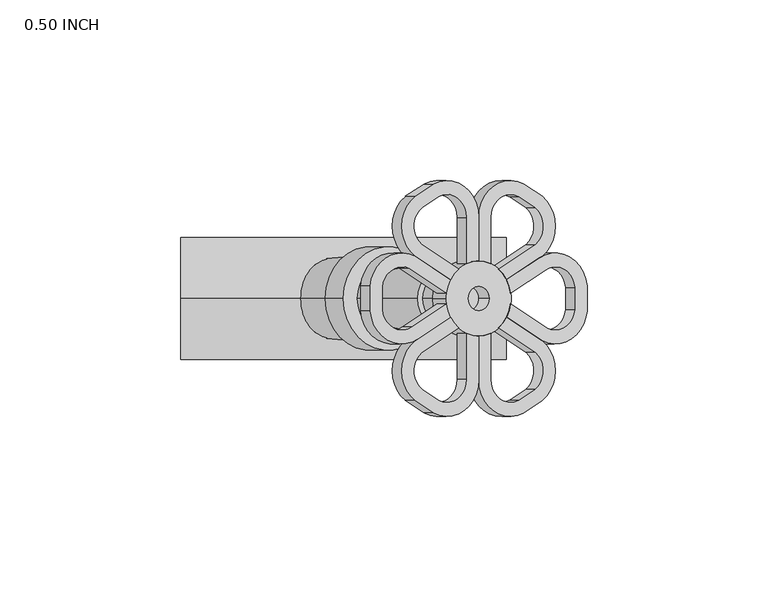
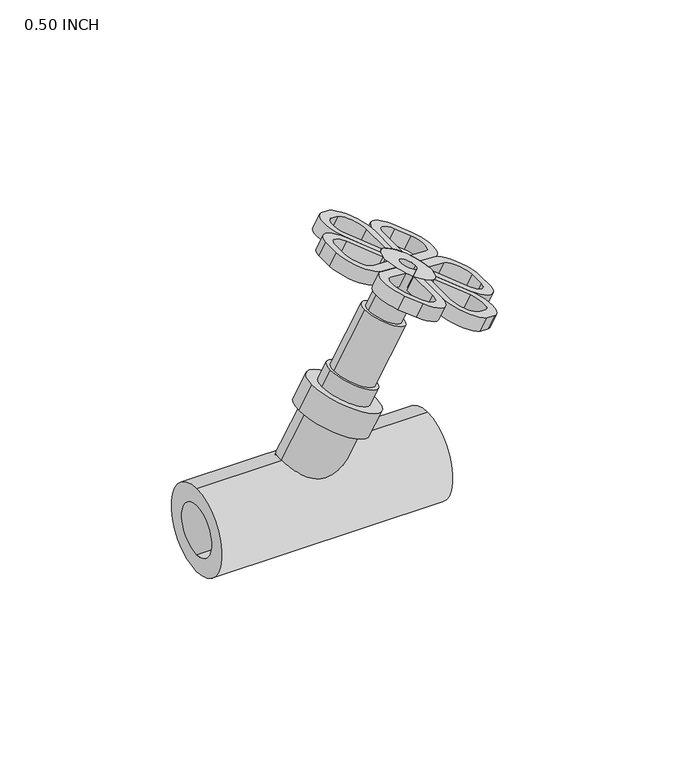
"""IFC4 building model written with IfcOpenShell, lengths in millimetres: valve geometry, Aquatherm - Inclined Valve without drain : 0.50 INCH."""

from ifc_helpers import new_model, si_unit, point, frame, frame_2d, origin, origin_2d, place, context, project, spatial, polyline, circle_curve, trimmed, segment, composite_curve, outline, extrude, source, transform, mapped, element, save
from ifc_brep_helpers import plane_surface, cylinder_surface, revolved_surface, advanced_brep


def valve_0_50_inch_d9e562da(model_context):
    return source(origin(), model_context, "Body", "SolidModel", [
        advanced_brep(
        [(111.9367275, 10.5951948, 66.2771909), (125.069744, 2.812243, 58.6948403), (125.0898625, -4.0695455, 58.6832248), (112.7241595, -12.3087434, 65.8225668), (102.9347614, -5.7824779, 71.4744784), (104.0280816, -2.111949, 70.8432497), (114.2140611, -8.902602, 64.9623717), (121.7917492, -3.6900946, 60.5873914), (121.8077835, 2.4387005, 60.578134), (113.5865059, 7.295638, 65.3246909), (104.0154846, 0.9149571, 70.8505226), (102.9071894, 4.5755028, 71.4903971), (114.6037275, 10.5951948, 70.8965704), (105.5741894, 4.5755028, 76.1097766), (106.6824846, 0.9149571, 75.4699021), (116.2535059, 7.295638, 69.9440704), (124.4532944, 2.4362397, 65.2099203), (124.473563, -3.691799, 65.1982182), (116.8810611, -8.902602, 69.5817512), (106.6950816, -2.111949, 75.4626292), (105.6017614, -5.7824779, 76.0938579), (115.3911595, -12.3087434, 70.4419463), (127.7420487, -4.0678412, 63.3111571), (127.7582331, 2.8147039, 63.301813)],
        [
            (0, 1, circle_curve(frame((116.3286929, 1.8112639, 63.7414884), z_axis=(-0.49999999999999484, 0.0, -0.8660254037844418), x_axis=(0.4330127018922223, -0.866025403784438, -0.24999999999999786)), 10.1428098)),
            (1, 2, circle_curve(frame((95.1023937, -0.6194603, 75.996498), z_axis=(-0.49999999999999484, 0.0, -0.8660254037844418), x_axis=(0.4330127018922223, -0.866025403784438, -0.24999999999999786)), 34.798)),
            (2, 3, circle_curve(frame((116.3343972, -3.0622214, 63.7381951), z_axis=(-0.49999999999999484, 0.0, -0.8660254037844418), x_axis=(0.4330127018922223, -0.866025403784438, -0.24999999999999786)), 10.1428098)),
            (3, 4),
            (4, 5, circle_curve(frame((95.1023937, -0.6194603, 75.996498), z_axis=(0.49999999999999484, 0.0, 0.8660254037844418), x_axis=(0.41622412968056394, 0.8769321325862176, -0.2403071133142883)), 10.414)),
            (5, 6),
            (6, 7, circle_curve(frame((116.3343972, -3.0622214, 63.7381951), z_axis=(0.49999999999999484, 0.0, 0.8660254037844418), x_axis=(0.4330127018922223, -0.866025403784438, -0.24999999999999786)), 6.3328098)),
            (7, 8, circle_curve(frame((95.1023937, -0.6194603, 75.996498), z_axis=(0.49999999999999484, 0.0, 0.8660254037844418), x_axis=(0.4330127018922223, -0.866025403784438, -0.24999999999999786)), 30.988)),
            (8, 9, circle_curve(frame((116.3286929, 1.8112639, 63.7414884), z_axis=(0.49999999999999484, 0.0, 0.8660254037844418), x_axis=(0.4330127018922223, -0.866025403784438, -0.24999999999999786)), 6.3328098)),
            (9, 10),
            (10, 11, circle_curve(frame((95.0966894, -0.6314972, 75.9997914), z_axis=(0.49999999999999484, 0.0, 0.8660254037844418), x_axis=(0.4330127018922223, -0.866025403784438, -0.24999999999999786)), 10.414)),
            (11, 0),
            (12, 13),
            (13, 14, circle_curve(frame((97.7636894, -0.6314972, 80.6191709), z_axis=(-0.49999999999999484, 0.0, -0.8660254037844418), x_axis=(0.4330127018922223, -0.866025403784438, -0.24999999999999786)), 10.414)),
            (14, 15),
            (15, 16, circle_curve(frame((118.9956929, 1.8112639, 68.3608679), z_axis=(-0.49999999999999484, 0.0, -0.8660254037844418), x_axis=(0.4330127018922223, -0.866025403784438, -0.24999999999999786)), 6.3328098)),
            (16, 17, circle_curve(frame((97.7693937, -0.6194603, 80.6158775), z_axis=(-0.49999999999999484, 0.0, -0.8660254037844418), x_axis=(0.4330127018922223, -0.866025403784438, -0.24999999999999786)), 30.988)),
            (17, 18, circle_curve(frame((119.0013972, -3.0622214, 68.3575746), z_axis=(-0.49999999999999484, 0.0, -0.8660254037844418), x_axis=(0.4330127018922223, -0.866025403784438, -0.24999999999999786)), 6.3328098)),
            (18, 19),
            (19, 20, circle_curve(frame((97.7693937, -0.6194603, 80.6158775), z_axis=(-0.49999999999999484, 0.0, -0.8660254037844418), x_axis=(0.41622412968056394, 0.8769321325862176, -0.2403071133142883)), 10.414)),
            (20, 21),
            (21, 22, circle_curve(frame((119.0013972, -3.0622214, 68.3575746), z_axis=(0.49999999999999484, 0.0, 0.8660254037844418), x_axis=(0.4330127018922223, -0.866025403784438, -0.24999999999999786)), 10.1428098)),
            (22, 23, circle_curve(frame((97.7693937, -0.6194603, 80.6158775), z_axis=(0.49999999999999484, 0.0, 0.8660254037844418), x_axis=(0.4330127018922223, -0.866025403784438, -0.24999999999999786)), 34.798)),
            (23, 12, circle_curve(frame((118.9956929, 1.8112639, 68.3608679), z_axis=(0.49999999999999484, 0.0, 0.8660254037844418), x_axis=(0.4330127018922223, -0.866025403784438, -0.24999999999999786)), 10.1428098)),
            (11, 13),
            (12, 0),
            (10, 14),
            (9, 15),
            (8, 16),
            (7, 17),
            (6, 18),
            (5, 19),
            (4, 20),
            (3, 21),
            (2, 22),
            (1, 23),
        ],
        [
            plane_surface(frame((120.7206584, -6.9726671, 61.205786), z_axis=(-0.4999999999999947, 0.0, -0.8660254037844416), x_axis=(-0.7500000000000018, -0.5000000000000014, 0.43301270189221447))),
            plane_surface(frame((123.3876584, -6.9726671, 65.8251655), z_axis=(0.4999999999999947, 0.0, 0.8660254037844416), x_axis=(0.7500000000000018, 0.5000000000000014, -0.43301270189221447))),
            plane_surface(frame((102.9071894, 4.5755028, 71.4903971), z_axis=(-0.43301270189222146, 0.8660254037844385, 0.24999999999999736), x_axis=(0.49999999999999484, 0.0, 0.8660254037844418))),
            revolved_surface(polyline([(102.27308368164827, -9.650285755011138, 78.01567090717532), (99.6060836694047, -9.650285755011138, 73.39629138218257)]), (97.7636894, -0.6314972, 80.6191709), (0.49999999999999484, 0.0, 0.8660254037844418)),
            plane_surface(frame((113.5865059, 7.295638, 65.3246909), z_axis=(0.43301270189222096, -0.8660254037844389, -0.24999999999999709), x_axis=(0.49999999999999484, 0.0, 0.8660254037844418))),
            revolved_surface(polyline([(121.73788002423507, -3.6731102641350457, 66.7776655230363), (119.07087998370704, -3.6731102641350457, 62.15828594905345)]), (118.9956929, 1.8112639, 68.3608679), (0.49999999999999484, 0.0, 0.8660254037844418)),
            revolved_surface(polyline([(111.1875913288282, -27.455855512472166, 72.8688775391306), (108.52059130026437, -27.455855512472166, 68.2494979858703)]), (97.7693937, -0.6194603, 80.6158775), (0.49999999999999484, 0.0, 0.8660254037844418)),
            revolved_surface(polyline([(121.74358428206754, -8.546595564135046, 66.77437215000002), (119.07658426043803, -8.546595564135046, 62.15499260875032)]), (119.0013972, -3.0622214, 68.3575746), (0.49999999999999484, 0.0, 0.8660254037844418)),
            plane_surface(frame((104.0280816, -2.111949, 70.8432497), z_axis=(0.4330127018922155, 0.8660254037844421, -0.2499999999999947), x_axis=(0.49999999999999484, 0.0, 0.8660254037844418))),
            revolved_surface(polyline([(102.10395179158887, 8.51291092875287, 78.11331923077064), (99.43695178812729, 8.51291092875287, 73.49393972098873)]), (97.7693937, -0.6194603, 80.6158775), (0.49999999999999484, 0.0, 0.8660254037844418)),
            plane_surface(frame((112.7241595, -12.3087434, 65.8225668), z_axis=(-0.43301270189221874, -0.8660254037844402, 0.24999999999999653), x_axis=(0.49999999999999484, 0.0, 0.8660254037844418))),
            cylinder_surface(frame((119.0013972, -3.0622214, 68.3575746), z_axis=(-0.49999999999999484, 0.0, -0.8660254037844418), x_axis=(0.4330127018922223, -0.866025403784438, -0.24999999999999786)), 10.1428098),
            cylinder_surface(frame((97.7693937, -0.6194603, 80.6158775), z_axis=(-0.49999999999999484, 0.0, -0.8660254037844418), x_axis=(0.4330127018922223, -0.866025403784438, -0.24999999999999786)), 34.798),
            cylinder_surface(frame((118.9956929, 1.8112639, 68.3608679), z_axis=(-0.49999999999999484, 0.0, -0.8660254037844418), x_axis=(0.4330127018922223, -0.866025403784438, -0.24999999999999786)), 10.1428098),
        ],
        [
            (0, [[1, 2, 3, 4, 5, 6, 7, 8, 9, 10, 11, 12]]),
            (1, [[13, 14, 15, 16, 17, 18, 19, 20, 21, 22, 23, 24]]),
            (2, [[-12, 25, -13, 26]]),
            (3, [[-11, 27, -14, -25]]),
            (4, [[-10, 28, -15, -27]]),
            (5, [[-9, 29, -16, -28]]),
            (6, [[-8, 30, -17, -29]]),
            (7, [[-7, 31, -18, -30]]),
            (8, [[-6, 32, -19, -31]]),
            (9, [[-5, 33, -20, -32]]),
            (10, [[-4, 34, -21, -33]]),
            (11, [[-3, 35, -22, -34]]),
            (12, [[-2, 36, -23, -35]]),
            (13, [[-1, -26, -24, -36]]),
        ],
    ),
        advanced_brep(
        [(78.2566514, -11.8581892, 85.7223918), (65.1236349, -4.0752375, 93.3047424), (65.1035164, 2.8065511, 93.3163579), (77.4692194, 11.0457489, 86.177016), (87.2586175, 4.5194835, 80.5251043), (86.1652973, 0.8489546, 81.156333), (75.9793178, 7.6396076, 87.037211), (68.4016297, 2.4271002, 91.4121913), (68.3855953, -3.7016949, 91.4214487), (76.606873, -8.5586324, 86.6748918), (86.1778943, -2.1779516, 81.1490601), (87.2861894, -5.8384972, 80.5091856), (80.9236514, -11.8581892, 90.3417713), (89.9531894, -5.8384972, 85.1285651), (88.8448943, -2.1779516, 85.7684396), (79.273873, -8.5586324, 91.2942713), (71.0740845, -3.6992341, 96.0284215), (71.0538159, 2.4288045, 96.0401236), (78.6463178, 7.6396076, 91.6565905), (88.8322973, 0.8489546, 85.7757125), (89.9256175, 4.5194835, 85.1444838), (80.1362194, 11.0457489, 90.7963955), (67.7853302, 2.8048467, 97.9271846), (67.7691458, -4.0776983, 97.9365287)],
        [
            (0, 1, circle_curve(frame((73.864686, -3.0742583, 88.2580943), z_axis=(-0.49999999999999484, 0.0, -0.8660254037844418), x_axis=(-0.4330127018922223, 0.866025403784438, 0.24999999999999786)), 10.1428098)),
            (1, 2, circle_curve(frame((95.0909852, -0.6435341, 76.0030847), z_axis=(-0.49999999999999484, 0.0, -0.8660254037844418), x_axis=(-0.4330127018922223, 0.866025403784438, 0.24999999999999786)), 34.798)),
            (2, 3, circle_curve(frame((73.8589817, 1.7992269, 88.2613876), z_axis=(-0.49999999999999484, 0.0, -0.8660254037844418), x_axis=(-0.4330127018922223, 0.866025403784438, 0.24999999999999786)), 10.1428098)),
            (3, 4),
            (4, 5, circle_curve(frame((95.0909852, -0.6435341, 76.0030847), z_axis=(0.49999999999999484, 0.0, 0.8660254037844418), x_axis=(-0.41622412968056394, -0.8769321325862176, 0.2403071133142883)), 10.414)),
            (5, 6),
            (6, 7, circle_curve(frame((73.8589817, 1.7992269, 88.2613876), z_axis=(0.49999999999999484, 0.0, 0.8660254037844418), x_axis=(-0.4330127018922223, 0.866025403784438, 0.24999999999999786)), 6.3328098)),
            (7, 8, circle_curve(frame((95.0909852, -0.6435341, 76.0030847), z_axis=(0.49999999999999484, 0.0, 0.8660254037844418), x_axis=(-0.4330127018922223, 0.866025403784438, 0.24999999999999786)), 30.988)),
            (8, 9, circle_curve(frame((73.864686, -3.0742583, 88.2580943), z_axis=(0.49999999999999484, 0.0, 0.8660254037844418), x_axis=(-0.4330127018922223, 0.866025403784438, 0.24999999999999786)), 6.3328098)),
            (9, 10),
            (10, 11, circle_curve(frame((95.0966894, -0.6314972, 75.9997914), z_axis=(0.49999999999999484, 0.0, 0.8660254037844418), x_axis=(-0.4330127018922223, 0.866025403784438, 0.24999999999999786)), 10.414)),
            (11, 0),
            (12, 13),
            (13, 14, circle_curve(frame((97.7636894, -0.6314972, 80.6191709), z_axis=(-0.49999999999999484, 0.0, -0.8660254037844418), x_axis=(-0.4330127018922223, 0.866025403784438, 0.24999999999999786)), 10.414)),
            (14, 15),
            (15, 16, circle_curve(frame((76.531686, -3.0742583, 92.8774738), z_axis=(-0.49999999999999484, 0.0, -0.8660254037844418), x_axis=(-0.4330127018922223, 0.866025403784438, 0.24999999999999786)), 6.3328098)),
            (16, 17, circle_curve(frame((97.7579852, -0.6435341, 80.6224642), z_axis=(-0.49999999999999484, 0.0, -0.8660254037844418), x_axis=(-0.4330127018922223, 0.866025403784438, 0.24999999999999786)), 30.988)),
            (17, 18, circle_curve(frame((76.5259817, 1.7992269, 92.8807671), z_axis=(-0.49999999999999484, 0.0, -0.8660254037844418), x_axis=(-0.4330127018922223, 0.866025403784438, 0.24999999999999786)), 6.3328098)),
            (18, 19),
            (19, 20, circle_curve(frame((97.7579852, -0.6435341, 80.6224642), z_axis=(-0.49999999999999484, 0.0, -0.8660254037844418), x_axis=(-0.41622412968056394, -0.8769321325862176, 0.2403071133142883)), 10.414)),
            (20, 21),
            (21, 22, circle_curve(frame((76.5259817, 1.7992269, 92.8807671), z_axis=(0.49999999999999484, 0.0, 0.8660254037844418), x_axis=(-0.4330127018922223, 0.866025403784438, 0.24999999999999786)), 10.1428098)),
            (22, 23, circle_curve(frame((97.7579852, -0.6435341, 80.6224642), z_axis=(0.49999999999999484, 0.0, 0.8660254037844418), x_axis=(-0.4330127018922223, 0.866025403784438, 0.24999999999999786)), 34.798)),
            (23, 12, circle_curve(frame((76.531686, -3.0742583, 92.8774738), z_axis=(0.49999999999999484, 0.0, 0.8660254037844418), x_axis=(-0.4330127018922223, 0.866025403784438, 0.24999999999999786)), 10.1428098)),
            (0, 12),
            (23, 1),
            (22, 2),
            (21, 3),
            (20, 4),
            (19, 5),
            (18, 6),
            (17, 7),
            (16, 8),
            (15, 9),
            (14, 10),
            (13, 11),
        ],
        [
            plane_surface(frame((69.4727205, 5.7096726, 90.7937967), z_axis=(-0.4999999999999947, 0.0, -0.8660254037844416), x_axis=(0.7500000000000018, 0.5000000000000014, -0.43301270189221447))),
            plane_surface(frame((72.1397205, 5.7096726, 95.4131762), z_axis=(0.4999999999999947, 0.0, 0.8660254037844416), x_axis=(-0.7500000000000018, -0.5000000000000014, 0.43301270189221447))),
            cylinder_surface(frame((76.531686, -3.0742583, 92.8774738), z_axis=(-0.49999999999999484, 0.0, -0.8660254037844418), x_axis=(-0.4330127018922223, 0.866025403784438, 0.24999999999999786)), 10.1428098),
            cylinder_surface(frame((97.7579852, -0.6435341, 80.6224642), z_axis=(-0.49999999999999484, 0.0, -0.8660254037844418), x_axis=(-0.4330127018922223, 0.866025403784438, 0.24999999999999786)), 34.798),
            cylinder_surface(frame((76.5259817, 1.7992269, 92.8807671), z_axis=(-0.49999999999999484, 0.0, -0.8660254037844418), x_axis=(-0.4330127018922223, 0.866025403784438, 0.24999999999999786)), 10.1428098),
            plane_surface(frame((77.4692194, 11.0457489, 86.177016), z_axis=(0.43301270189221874, 0.8660254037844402, -0.24999999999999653), x_axis=(0.49999999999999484, 0.0, 0.8660254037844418))),
            revolved_surface(polyline([(93.4234271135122, -9.77590532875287, 83.12502247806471), (90.75642711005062, -9.77590532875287, 78.50564296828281)]), (97.7579852, -0.6435341, 80.6224642), (0.49999999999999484, 0.0, 0.8660254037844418)),
            plane_surface(frame((86.1652973, 0.8489546, 81.156333), z_axis=(-0.43301270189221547, -0.8660254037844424, 0.24999999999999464), x_axis=(0.49999999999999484, 0.0, 0.8660254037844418))),
            revolved_surface(polyline([(73.78379466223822, 7.283601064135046, 94.46396962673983), (71.11679461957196, 7.283601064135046, 89.84459004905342)]), (76.5259817, 1.7992269, 92.8807671), (0.49999999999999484, 0.0, 0.8660254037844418)),
            revolved_surface(polyline([(84.33978762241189, 26.192861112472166, 88.36946424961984), (81.67278757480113, 26.192861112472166, 83.75008466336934)]), (97.7579852, -0.6435341, 80.6224642), (0.49999999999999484, 0.0, 0.8660254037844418)),
            revolved_surface(polyline([(73.78949892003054, 2.410115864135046, 94.46067625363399), (71.12249887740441, 2.410115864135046, 89.84129667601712)]), (76.531686, -3.0742583, 92.8774738), (0.49999999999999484, 0.0, 0.8660254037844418)),
            plane_surface(frame((76.606873, -8.5586324, 86.6748918), z_axis=(-0.43301270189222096, 0.8660254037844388, 0.24999999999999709), x_axis=(0.49999999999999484, 0.0, 0.8660254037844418))),
            revolved_surface(polyline([(93.2542951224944, 8.387291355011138, 83.22267089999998), (90.58729509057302, 8.387291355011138, 78.60329134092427)]), (97.7636894, -0.6314972, 80.6191709), (0.49999999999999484, 0.0, 0.8660254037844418)),
            plane_surface(frame((87.2861894, -5.8384972, 80.5091856), z_axis=(0.43301270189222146, -0.8660254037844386, -0.24999999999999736), x_axis=(0.49999999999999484, 0.0, 0.8660254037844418))),
        ],
        [
            (0, [[1, 2, 3, 4, 5, 6, 7, 8, 9, 10, 11, 12]]),
            (1, [[13, 14, 15, 16, 17, 18, 19, 20, 21, 22, 23, 24]]),
            (2, [[-1, 25, -24, 26]]),
            (3, [[-2, -26, -23, 27]]),
            (4, [[-3, -27, -22, 28]]),
            (5, [[-4, -28, -21, 29]]),
            (6, [[-5, -29, -20, 30]]),
            (7, [[-6, -30, -19, 31]]),
            (8, [[-7, -31, -18, 32]]),
            (9, [[-8, -32, -17, 33]]),
            (10, [[-9, -33, -16, 34]]),
            (11, [[-10, -34, -15, 35]]),
            (12, [[-11, -35, -14, 36]]),
            (13, [[-12, -36, -13, -25]]),
        ],
    ),
        advanced_brep(
        [(95.0966894, 21.8218868, 75.9997914), (95.0966894, 9.7825028, 75.9997914), (91.7971327, 9.0605251, 77.9047914), (91.7971327, 21.8218868, 77.9047914), (84.0526896, 27.5919762, 82.3760476), (79.4465264, 24.5482255, 85.0354172), (79.334675, 14.350322, 85.0999946), (89.5206545, 7.559669, 79.2191166), (87.3144179, 4.6310844, 80.4928879), (77.5250198, 11.1573498, 86.1447996), (77.5302518, 27.6286901, 86.1417788), (82.6840684, 31.086147, 83.1662214), (97.7636894, 21.8218868, 80.6191709), (85.3599674, 31.0634274, 87.7804631), (80.1885667, 27.6426517, 90.7661727), (80.1920198, 11.1573498, 90.7641791), (89.9814179, 4.6310844, 85.1122674), (92.1876545, 7.559669, 83.8384961), (82.001675, 14.350322, 89.7193741), (82.1222115, 24.5342638, 89.6497824), (86.7107907, 27.6146957, 87.0005649), (94.4641327, 21.8218868, 82.5241709), (94.4641327, 9.0605251, 82.5241709), (97.7636894, 9.7825028, 80.6191709)],
        [
            (0, 1),
            (1, 2, circle_curve(frame((95.0966894, -0.6314972, 75.9997914), z_axis=(0.49999999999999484, 0.0, 0.8660254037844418), x_axis=(-0.8660254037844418, 0.0, 0.49999999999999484)), 10.414)),
            (2, 3),
            (3, 4, circle_curve(frame((86.3127585, 21.8218868, 81.0711962), z_axis=(0.49999999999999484, 0.0, 0.8660254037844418), x_axis=(-0.8660254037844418, 0.0, 0.49999999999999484)), 6.3328098)),
            (4, 5, circle_curve(frame((95.102865, -0.6197745, 75.9962259), z_axis=(0.49999999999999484, 0.0, 0.8660254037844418), x_axis=(-0.8660254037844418, 0.0, 0.49999999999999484)), 30.988)),
            (5, 6, circle_curve(frame((82.6547925, 19.3908484, 83.1831239), z_axis=(0.49999999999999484, 0.0, 0.8660254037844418), x_axis=(-0.8660254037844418, 0.0, 0.49999999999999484)), 6.3328098)),
            (6, 7),
            (7, 8, circle_curve(frame((95.102865, -0.6197745, 75.9962259), z_axis=(0.4999999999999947, 0.0, 0.8660254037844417), x_axis=(0.4495870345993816, 0.8546901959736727, -0.2595691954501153)), 10.414)),
            (8, 9),
            (9, 10, circle_curve(frame((82.6547925, 19.3908484, 83.1831239), z_axis=(-0.49999999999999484, 0.0, -0.8660254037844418), x_axis=(-0.8660254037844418, 0.0, 0.49999999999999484)), 10.1428098)),
            (10, 11, circle_curve(frame((95.102865, -0.6197745, 75.9962259), z_axis=(-0.49999999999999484, 0.0, -0.8660254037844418), x_axis=(-0.8660254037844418, 0.0, 0.49999999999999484)), 34.798)),
            (11, 0, circle_curve(frame((86.3127585, 21.8218868, 81.0711962), z_axis=(-0.49999999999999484, 0.0, -0.8660254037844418), x_axis=(-0.8660254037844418, 0.0, 0.49999999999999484)), 10.1428098)),
            (12, 13, circle_curve(frame((88.9797585, 21.8218868, 85.6905758), z_axis=(0.49999999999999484, 0.0, 0.8660254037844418), x_axis=(-0.8660254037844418, 0.0, 0.49999999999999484)), 10.1428098)),
            (13, 14, circle_curve(frame((97.769865, -0.6197745, 80.6156054), z_axis=(0.49999999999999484, 0.0, 0.8660254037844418), x_axis=(-0.8660254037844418, 0.0, 0.49999999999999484)), 34.798)),
            (14, 15, circle_curve(frame((85.3217925, 19.3908484, 87.8025034), z_axis=(0.49999999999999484, 0.0, 0.8660254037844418), x_axis=(-0.8660254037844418, 0.0, 0.49999999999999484)), 10.1428098)),
            (15, 16),
            (16, 17, circle_curve(frame((97.769865, -0.6197745, 80.6156054), z_axis=(-0.4999999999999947, 0.0, -0.8660254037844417), x_axis=(0.4495870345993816, 0.8546901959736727, -0.2595691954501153)), 10.414)),
            (17, 18),
            (18, 19, circle_curve(frame((85.3217925, 19.3908484, 87.8025034), z_axis=(-0.49999999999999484, 0.0, -0.8660254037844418), x_axis=(-0.8660254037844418, 0.0, 0.49999999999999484)), 6.3328098)),
            (19, 20, circle_curve(frame((97.769865, -0.6197745, 80.6156054), z_axis=(-0.49999999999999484, 0.0, -0.8660254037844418), x_axis=(-0.8660254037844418, 0.0, 0.49999999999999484)), 30.988)),
            (20, 21, circle_curve(frame((88.9797585, 21.8218868, 85.6905758), z_axis=(-0.49999999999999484, 0.0, -0.8660254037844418), x_axis=(-0.8660254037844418, 0.0, 0.49999999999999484)), 6.3328098)),
            (21, 22),
            (22, 23, circle_curve(frame((97.7636894, -0.6314972, 80.6191709), z_axis=(-0.49999999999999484, 0.0, -0.8660254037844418), x_axis=(-0.8660254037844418, 0.0, 0.49999999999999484)), 10.414)),
            (23, 12),
            (11, 13),
            (12, 0),
            (10, 14),
            (9, 15),
            (8, 16),
            (7, 17),
            (6, 18),
            (5, 19),
            (4, 20),
            (3, 21),
            (2, 22),
            (1, 23),
        ],
        [
            plane_surface(frame((95.0966894, 7.6235028, 75.9997914), z_axis=(-0.49999999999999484, 0.0, -0.8660254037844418), x_axis=(0.0, -1.0, 0.0))),
            plane_surface(frame((97.7636894, 7.6235028, 80.6191709), z_axis=(0.49999999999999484, 0.0, 0.8660254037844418), x_axis=(0.0, 1.0, 0.0))),
            cylinder_surface(frame((88.9797585, 21.8218868, 85.6905758), z_axis=(-0.49999999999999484, 0.0, -0.8660254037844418), x_axis=(-0.8660254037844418, 0.0, 0.49999999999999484)), 10.1428098),
            cylinder_surface(frame((97.769865, -0.6197745, 80.6156054), z_axis=(-0.49999999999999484, 0.0, -0.8660254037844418), x_axis=(-0.8660254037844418, 0.0, 0.49999999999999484)), 34.798),
            cylinder_surface(frame((85.3217925, 19.3908484, 87.8025034), z_axis=(-0.49999999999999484, 0.0, -0.8660254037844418), x_axis=(-0.8660254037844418, 0.0, 0.49999999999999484)), 10.1428098),
            plane_surface(frame((87.3144179, 4.6310844, 80.4928879), z_axis=(-0.433012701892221, -0.8660254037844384, 0.24999999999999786), x_axis=(0.49999999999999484, 0.0, 0.8660254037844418))),
            revolved_surface(polyline([(102.45186437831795, 8.280969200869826, 77.91245179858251), (99.78486436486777, 8.280969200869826, 73.29307227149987)]), (97.769865, -0.6197745, 80.6156054), (0.49999999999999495, 0.0, 0.866025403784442)),
            plane_surface(frame((79.334675, 14.350322, 85.0999946), z_axis=(0.4330127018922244, 0.8660254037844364, -0.2499999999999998), x_axis=(0.49999999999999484, 0.0, 0.8660254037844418))),
            revolved_surface(polyline([(79.8374183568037, 19.3908484, 90.96890833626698), (77.17041832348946, 19.3908484, 86.34952877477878)]), (85.3217925, 19.3908484, 87.8025034), (0.49999999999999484, 0.0, 0.8660254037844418)),
            revolved_surface(polyline([(70.93346980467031, -0.6197745, 96.10960542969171), (68.26646977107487, -0.6197745, 91.49022586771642)]), (97.769865, -0.6197745, 80.6156054), (0.49999999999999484, 0.0, 0.8660254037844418)),
            revolved_surface(polyline([(83.49538434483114, 21.8218868, 88.8569807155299), (80.82838429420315, 21.8218868, 84.2376011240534)]), (88.9797585, 21.8218868, 85.6905758), (0.49999999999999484, 0.0, 0.8660254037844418)),
            plane_surface(frame((91.7971327, 9.0605251, 77.9047914), z_axis=(-0.8660254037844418, 0.0, 0.49999999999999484), x_axis=(0.49999999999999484, 0.0, 0.8660254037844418))),
            revolved_surface(polyline([(88.7449008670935, -0.6314972, 85.8261709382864), (86.07790084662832, -0.6314972, 81.20679139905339)]), (97.7636894, -0.6314972, 80.6191709), (0.49999999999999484, 0.0, 0.8660254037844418)),
            plane_surface(frame((95.0966894, 21.8218868, 75.9997914), z_axis=(0.8660254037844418, 0.0, -0.49999999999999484), x_axis=(0.49999999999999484, 0.0, 0.8660254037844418))),
        ],
        [
            (0, [[1, 2, 3, 4, 5, 6, 7, 8, 9, 10, 11, 12]]),
            (1, [[13, 14, 15, 16, 17, 18, 19, 20, 21, 22, 23, 24]]),
            (2, [[-12, 25, -13, 26]]),
            (3, [[-11, 27, -14, -25]]),
            (4, [[-10, 28, -15, -27]]),
            (5, [[-9, 29, -16, -28]]),
            (6, [[-8, 30, -17, -29]]),
            (7, [[-7, 31, -18, -30]]),
            (8, [[-6, 32, -19, -31]]),
            (9, [[-5, 33, -20, -32]]),
            (10, [[-4, 34, -21, -33]]),
            (11, [[-3, 35, -22, -34]]),
            (12, [[-2, 36, -23, -35]]),
            (13, [[-1, -26, -24, -36]]),
        ],
    ),
        advanced_brep(
        [(95.0966894, 21.8218868, 75.9997914), (107.5004115, 31.0634274, 68.8384991), (112.6718122, 27.6426517, 65.8527895), (112.6683591, 11.1573498, 65.8547832), (102.8789609, 4.6310844, 71.5066948), (100.6727244, 7.559669, 72.7804661), (110.8587039, 14.350322, 66.8995881), (110.7381674, 24.5342638, 66.9691799), (106.1495882, 27.6146957, 69.6183973), (98.3962462, 21.8218868, 74.0947914), (98.3962462, 9.0605251, 74.0947914), (95.0966894, 9.7825028, 75.9997914), (97.7636894, 21.8218868, 80.6191709), (97.7636894, 9.7825028, 80.6191709), (101.0632462, 9.0605251, 78.7141709), (101.0632462, 21.8218868, 78.7141709), (108.8076892, 27.5919762, 74.2429146), (113.4138525, 24.5482255, 71.583545), (113.5257039, 14.350322, 71.5189676), (103.3397244, 7.559669, 77.3998456), (105.5459609, 4.6310844, 76.1260743), (115.3353591, 11.1573498, 70.4741627), (115.330127, 27.6286901, 70.4771834), (110.1763105, 31.086147, 73.4527408)],
        [
            (0, 1, circle_curve(frame((103.8806204, 21.8218868, 70.9283865), z_axis=(-0.49999999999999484, 0.0, -0.8660254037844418), x_axis=(0.8660254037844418, 0.0, -0.49999999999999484)), 10.1428098)),
            (1, 2, circle_curve(frame((95.0905139, -0.6197745, 76.0033568), z_axis=(-0.49999999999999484, 0.0, -0.8660254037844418), x_axis=(0.8660254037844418, 0.0, -0.49999999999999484)), 34.798)),
            (2, 3, circle_curve(frame((107.5385864, 19.3908484, 68.8164588), z_axis=(-0.49999999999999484, 0.0, -0.8660254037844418), x_axis=(0.8660254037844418, 0.0, -0.49999999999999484)), 10.1428098)),
            (3, 4),
            (4, 5, circle_curve(frame((95.0905139, -0.6197745, 76.0033568), z_axis=(0.4999999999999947, 0.0, 0.8660254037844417), x_axis=(-0.4495870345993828, 0.854690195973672, 0.2595691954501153)), 10.414)),
            (5, 6),
            (6, 7, circle_curve(frame((107.5385864, 19.3908484, 68.8164588), z_axis=(0.49999999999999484, 0.0, 0.8660254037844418), x_axis=(0.8660254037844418, 0.0, -0.49999999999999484)), 6.3328098)),
            (7, 8, circle_curve(frame((95.0905139, -0.6197745, 76.0033568), z_axis=(0.49999999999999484, 0.0, 0.8660254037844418), x_axis=(0.8660254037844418, 0.0, -0.49999999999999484)), 30.988)),
            (8, 9, circle_curve(frame((103.8806204, 21.8218868, 70.9283865), z_axis=(0.49999999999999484, 0.0, 0.8660254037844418), x_axis=(0.8660254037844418, 0.0, -0.49999999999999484)), 6.3328098)),
            (9, 10),
            (10, 11, circle_curve(frame((95.0966894, -0.6314972, 75.9997914), z_axis=(0.49999999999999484, 0.0, 0.8660254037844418), x_axis=(0.8660254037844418, 0.0, -0.49999999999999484)), 10.414)),
            (11, 0),
            (12, 13),
            (13, 14, circle_curve(frame((97.7636894, -0.6314972, 80.6191709), z_axis=(-0.49999999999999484, 0.0, -0.8660254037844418), x_axis=(0.8660254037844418, 0.0, -0.49999999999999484)), 10.414)),
            (14, 15),
            (15, 16, circle_curve(frame((106.5476204, 21.8218868, 75.547766), z_axis=(-0.49999999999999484, 0.0, -0.8660254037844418), x_axis=(0.8660254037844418, 0.0, -0.49999999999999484)), 6.3328098)),
            (16, 17, circle_curve(frame((97.7575139, -0.6197745, 80.6227363), z_axis=(-0.49999999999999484, 0.0, -0.8660254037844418), x_axis=(0.8660254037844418, 0.0, -0.49999999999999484)), 30.988)),
            (17, 18, circle_curve(frame((110.2055864, 19.3908484, 73.4358383), z_axis=(-0.49999999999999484, 0.0, -0.8660254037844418), x_axis=(0.8660254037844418, 0.0, -0.49999999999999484)), 6.3328098)),
            (18, 19),
            (19, 20, circle_curve(frame((97.7575139, -0.6197745, 80.6227363), z_axis=(-0.4999999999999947, 0.0, -0.8660254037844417), x_axis=(-0.4495870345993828, 0.854690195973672, 0.2595691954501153)), 10.414)),
            (20, 21),
            (21, 22, circle_curve(frame((110.2055864, 19.3908484, 73.4358383), z_axis=(0.49999999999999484, 0.0, 0.8660254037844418), x_axis=(0.8660254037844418, 0.0, -0.49999999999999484)), 10.1428098)),
            (22, 23, circle_curve(frame((97.7575139, -0.6197745, 80.6227363), z_axis=(0.49999999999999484, 0.0, 0.8660254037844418), x_axis=(0.8660254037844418, 0.0, -0.49999999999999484)), 34.798)),
            (23, 12, circle_curve(frame((106.5476204, 21.8218868, 75.547766), z_axis=(0.49999999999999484, 0.0, 0.8660254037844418), x_axis=(0.8660254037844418, 0.0, -0.49999999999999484)), 10.1428098)),
            (11, 13),
            (12, 0),
            (10, 14),
            (9, 15),
            (8, 16),
            (7, 17),
            (6, 18),
            (5, 19),
            (4, 20),
            (3, 21),
            (2, 22),
            (1, 23),
        ],
        [
            plane_surface(frame((112.6645513, 21.8218868, 65.8569816), z_axis=(-0.49999999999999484, 0.0, -0.8660254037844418), x_axis=(0.0, -1.0, 0.0))),
            plane_surface(frame((115.3315513, 21.8218868, 70.4763611), z_axis=(0.49999999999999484, 0.0, 0.8660254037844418), x_axis=(0.0, 1.0, 0.0))),
            plane_surface(frame((95.0966894, 9.7825028, 75.9997914), z_axis=(-0.8660254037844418, 0.0, 0.49999999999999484), x_axis=(0.49999999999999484, 0.0, 0.8660254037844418))),
            revolved_surface(polyline([(106.7824779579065, -0.6314972, 75.41217090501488), (104.1154779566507, -0.6314972, 70.79279139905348)]), (97.7636894, -0.6314972, 80.6191709), (0.49999999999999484, 0.0, 0.8660254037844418)),
            plane_surface(frame((98.3962462, 21.8218868, 74.0947914), z_axis=(0.8660254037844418, 0.0, -0.49999999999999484), x_axis=(0.49999999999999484, 0.0, 0.8660254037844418))),
            revolved_surface(polyline([(112.03199456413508, 21.8218868, 72.38136110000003), (109.36499455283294, 21.8218868, 67.7619815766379)]), (106.5476204, 21.8218868, 75.547766), (0.49999999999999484, 0.0, 0.8660254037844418)),
            revolved_surface(polyline([(124.5939091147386, -0.6197745, 65.1287363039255), (121.9269091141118, -0.6197745, 60.50935679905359)]), (97.7575139, -0.6197745, 80.6227363), (0.49999999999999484, 0.0, 0.8660254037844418)),
            revolved_surface(polyline([(115.68996057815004, 19.3908484, 70.26943342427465), (113.02296056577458, 19.3908484, 65.65005389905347)]), (110.2055864, 19.3908484, 73.4358383), (0.49999999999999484, 0.0, 0.8660254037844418)),
            plane_surface(frame((100.6727244, 7.559669, 72.7804661), z_axis=(-0.4330127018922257, 0.8660254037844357, 0.24999999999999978), x_axis=(0.49999999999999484, 0.0, 0.8660254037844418))),
            revolved_surface(polyline([(93.0755145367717, 8.28096920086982, 83.32588992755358), (90.40851451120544, 8.28096920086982, 78.70651037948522)]), (97.7575139, -0.6197745, 80.6227363), (0.49999999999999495, 0.0, 0.866025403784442)),
            plane_surface(frame((112.6683591, 11.1573498, 65.8547832), z_axis=(0.4330127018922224, -0.8660254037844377, -0.24999999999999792), x_axis=(0.49999999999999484, 0.0, 0.8660254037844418))),
            cylinder_surface(frame((110.2055864, 19.3908484, 73.4358383), z_axis=(-0.49999999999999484, 0.0, -0.8660254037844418), x_axis=(0.8660254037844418, 0.0, -0.49999999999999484)), 10.1428098),
            cylinder_surface(frame((97.7575139, -0.6197745, 80.6227363), z_axis=(-0.49999999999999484, 0.0, -0.8660254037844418), x_axis=(0.8660254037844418, 0.0, -0.49999999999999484)), 34.798),
            cylinder_surface(frame((106.5476204, 21.8218868, 75.547766), z_axis=(-0.49999999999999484, 0.0, -0.8660254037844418), x_axis=(0.8660254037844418, 0.0, -0.49999999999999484)), 10.1428098),
        ],
        [
            (0, [[1, 2, 3, 4, 5, 6, 7, 8, 9, 10, 11, 12]]),
            (1, [[13, 14, 15, 16, 17, 18, 19, 20, 21, 22, 23, 24]]),
            (2, [[-12, 25, -13, 26]]),
            (3, [[-11, 27, -14, -25]]),
            (4, [[-10, 28, -15, -27]]),
            (5, [[-9, 29, -16, -28]]),
            (6, [[-8, 30, -17, -29]]),
            (7, [[-7, 31, -18, -30]]),
            (8, [[-6, 32, -19, -31]]),
            (9, [[-5, 33, -20, -32]]),
            (10, [[-4, 34, -21, -33]]),
            (11, [[-3, 35, -22, -34]]),
            (12, [[-2, 36, -23, -35]]),
            (13, [[-1, -26, -24, -36]]),
        ],
    ),
        advanced_brep(
        [(95.0966894, -23.0848812, 75.9997914), (82.6929674, -32.3264219, 83.1610836), (77.5215667, -28.9056461, 86.1467932), (77.5250198, -12.4203442, 86.1447996), (87.3144179, -5.8940788, 80.4928879), (89.5206545, -8.8226635, 79.2191166), (79.334675, -15.6133165, 85.0999946), (79.4552115, -25.7972583, 85.0304028), (84.0437907, -28.8776902, 82.3811854), (91.7971327, -23.0848812, 77.9047914), (91.7971327, -10.3235195, 77.9047914), (95.0966894, -11.0454972, 75.9997914), (97.7636894, -23.0848812, 80.6191709), (97.7636894, -11.0454972, 80.6191709), (94.4641327, -10.3235195, 82.5241709), (94.4641327, -23.0848812, 82.5241709), (86.7196896, -28.8549706, 86.9954271), (82.1135264, -25.8112199, 89.6547967), (82.001675, -15.6133165, 89.7193741), (92.1876545, -8.8226635, 83.8384961), (89.9814179, -5.8940788, 85.1122674), (80.1920198, -12.4203442, 90.7641791), (80.1972518, -28.8916845, 90.7611583), (85.3510684, -32.3491414, 87.7856009)],
        [
            (0, 1, circle_curve(frame((86.3127585, -23.0848812, 81.0711962), z_axis=(-0.49999999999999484, 0.0, -0.8660254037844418), x_axis=(-0.8660254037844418, 0.0, 0.49999999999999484)), 10.1428098)),
            (1, 2, circle_curve(frame((95.102865, -0.6432199, 75.9962259), z_axis=(-0.49999999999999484, 0.0, -0.8660254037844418), x_axis=(-0.8660254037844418, 0.0, 0.49999999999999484)), 34.798)),
            (2, 3, circle_curve(frame((82.6547925, -20.6538429, 83.1831239), z_axis=(-0.49999999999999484, 0.0, -0.8660254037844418), x_axis=(-0.8660254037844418, 0.0, 0.49999999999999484)), 10.1428098)),
            (3, 4),
            (4, 5, circle_curve(frame((95.102865, -0.6432199, 75.9962259), z_axis=(0.4999999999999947, 0.0, 0.8660254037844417), x_axis=(0.4495870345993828, -0.854690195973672, -0.2595691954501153)), 10.414)),
            (5, 6),
            (6, 7, circle_curve(frame((82.6547925, -20.6538429, 83.1831239), z_axis=(0.49999999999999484, 0.0, 0.8660254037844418), x_axis=(-0.8660254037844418, 0.0, 0.49999999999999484)), 6.3328098)),
            (7, 8, circle_curve(frame((95.102865, -0.6432199, 75.9962259), z_axis=(0.49999999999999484, 0.0, 0.8660254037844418), x_axis=(-0.8660254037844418, 0.0, 0.49999999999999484)), 30.988)),
            (8, 9, circle_curve(frame((86.3127585, -23.0848812, 81.0711962), z_axis=(0.49999999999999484, 0.0, 0.8660254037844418), x_axis=(-0.8660254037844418, 0.0, 0.49999999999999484)), 6.3328098)),
            (9, 10),
            (10, 11, circle_curve(frame((95.0966894, -0.6314972, 75.9997914), z_axis=(0.49999999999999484, 0.0, 0.8660254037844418), x_axis=(-0.8660254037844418, 0.0, 0.49999999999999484)), 10.414)),
            (11, 0),
            (12, 13),
            (13, 14, circle_curve(frame((97.7636894, -0.6314972, 80.6191709), z_axis=(-0.49999999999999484, 0.0, -0.8660254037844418), x_axis=(-0.8660254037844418, 0.0, 0.49999999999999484)), 10.414)),
            (14, 15),
            (15, 16, circle_curve(frame((88.9797585, -23.0848812, 85.6905758), z_axis=(-0.49999999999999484, 0.0, -0.8660254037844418), x_axis=(-0.8660254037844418, 0.0, 0.49999999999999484)), 6.3328098)),
            (16, 17, circle_curve(frame((97.769865, -0.6432199, 80.6156054), z_axis=(-0.49999999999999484, 0.0, -0.8660254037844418), x_axis=(-0.8660254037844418, 0.0, 0.49999999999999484)), 30.988)),
            (17, 18, circle_curve(frame((85.3217925, -20.6538429, 87.8025034), z_axis=(-0.49999999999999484, 0.0, -0.8660254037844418), x_axis=(-0.8660254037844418, 0.0, 0.49999999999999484)), 6.3328098)),
            (18, 19),
            (19, 20, circle_curve(frame((97.769865, -0.6432199, 80.6156054), z_axis=(-0.4999999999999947, 0.0, -0.8660254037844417), x_axis=(0.4495870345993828, -0.854690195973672, -0.2595691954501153)), 10.414)),
            (20, 21),
            (21, 22, circle_curve(frame((85.3217925, -20.6538429, 87.8025034), z_axis=(0.49999999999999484, 0.0, 0.8660254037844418), x_axis=(-0.8660254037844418, 0.0, 0.49999999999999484)), 10.1428098)),
            (22, 23, circle_curve(frame((97.769865, -0.6432199, 80.6156054), z_axis=(0.49999999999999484, 0.0, 0.8660254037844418), x_axis=(-0.8660254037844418, 0.0, 0.49999999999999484)), 34.798)),
            (23, 12, circle_curve(frame((88.9797585, -23.0848812, 85.6905758), z_axis=(0.49999999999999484, 0.0, 0.8660254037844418), x_axis=(-0.8660254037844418, 0.0, 0.49999999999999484)), 10.1428098)),
            (0, 12),
            (23, 1),
            (22, 2),
            (21, 3),
            (20, 4),
            (19, 5),
            (18, 6),
            (17, 7),
            (16, 8),
            (15, 9),
            (14, 10),
            (13, 11),
        ],
        [
            plane_surface(frame((77.5288276, -23.0848812, 86.1426011), z_axis=(-0.49999999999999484, 0.0, -0.8660254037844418), x_axis=(0.0, 1.0, 0.0))),
            plane_surface(frame((80.1958276, -23.0848812, 90.7619806), z_axis=(0.49999999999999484, 0.0, 0.8660254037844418), x_axis=(0.0, -1.0, 0.0))),
            cylinder_surface(frame((88.9797585, -23.0848812, 85.6905758), z_axis=(-0.49999999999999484, 0.0, -0.8660254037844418), x_axis=(-0.8660254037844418, 0.0, 0.49999999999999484)), 10.1428098),
            cylinder_surface(frame((97.769865, -0.6432199, 80.6156054), z_axis=(-0.49999999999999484, 0.0, -0.8660254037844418), x_axis=(-0.8660254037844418, 0.0, 0.49999999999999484)), 34.798),
            cylinder_surface(frame((85.3217925, -20.6538429, 87.8025034), z_axis=(-0.49999999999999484, 0.0, -0.8660254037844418), x_axis=(-0.8660254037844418, 0.0, 0.49999999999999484)), 10.1428098),
            plane_surface(frame((77.5250198, -12.4203442, 86.1447996), z_axis=(-0.4330127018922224, 0.8660254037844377, 0.24999999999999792), x_axis=(0.49999999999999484, 0.0, 0.8660254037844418))),
            revolved_surface(polyline([(102.45186437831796, -9.54396360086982, 77.91245179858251), (99.78486436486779, -9.54396360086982, 73.29307227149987)]), (97.769865, -0.6432199, 80.6156054), (0.49999999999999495, 0.0, 0.866025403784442)),
            plane_surface(frame((89.5206545, -8.8226635, 79.2191166), z_axis=(0.4330127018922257, -0.8660254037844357, -0.24999999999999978), x_axis=(0.49999999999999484, 0.0, 0.8660254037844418))),
            revolved_surface(polyline([(79.8374183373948, -20.6538429, 90.96890830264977), (77.17041831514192, -20.6538429, 86.34952876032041)]), (85.3217925, -20.6538429, 87.8025034), (0.49999999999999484, 0.0, 0.8660254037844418)),
            revolved_surface(polyline([(70.93346978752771, -0.6432199, 96.10960539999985), (68.26646976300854, -0.6432199, 91.49022585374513)]), (97.769865, -0.6432199, 80.6156054), (0.49999999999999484, 0.0, 0.8660254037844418)),
            revolved_surface(polyline([(83.49538434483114, -23.0848812, 88.8569807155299), (80.82838429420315, -23.0848812, 84.2376011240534)]), (88.9797585, -23.0848812, 85.6905758), (0.49999999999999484, 0.0, 0.8660254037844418)),
            plane_surface(frame((91.7971327, -23.0848812, 77.9047914), z_axis=(-0.8660254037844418, 0.0, 0.49999999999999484), x_axis=(0.49999999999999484, 0.0, 0.8660254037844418))),
            revolved_surface(polyline([(88.7449008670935, -0.6314972, 85.8261709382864), (86.07790084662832, -0.6314972, 81.20679139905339)]), (97.7636894, -0.6314972, 80.6191709), (0.49999999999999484, 0.0, 0.8660254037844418)),
            plane_surface(frame((95.0966894, -11.0454972, 75.9997914), z_axis=(0.8660254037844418, 0.0, -0.49999999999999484), x_axis=(0.49999999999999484, 0.0, 0.8660254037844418))),
        ],
        [
            (0, [[1, 2, 3, 4, 5, 6, 7, 8, 9, 10, 11, 12]]),
            (1, [[13, 14, 15, 16, 17, 18, 19, 20, 21, 22, 23, 24]]),
            (2, [[-1, 25, -24, 26]]),
            (3, [[-2, -26, -23, 27]]),
            (4, [[-3, -27, -22, 28]]),
            (5, [[-4, -28, -21, 29]]),
            (6, [[-5, -29, -20, 30]]),
            (7, [[-6, -30, -19, 31]]),
            (8, [[-7, -31, -18, 32]]),
            (9, [[-8, -32, -17, 33]]),
            (10, [[-9, -33, -16, 34]]),
            (11, [[-10, -34, -15, 35]]),
            (12, [[-11, -35, -14, 36]]),
            (13, [[-12, -36, -13, -25]]),
        ],
    ),
        advanced_brep(
        [(95.0966894, -23.0848812, 75.9997914), (95.0966894, -11.0454972, 75.9997914), (98.3962462, -10.3235195, 74.0947914), (98.3962462, -23.0848812, 74.0947914), (106.1406892, -28.8549706, 69.6235351), (110.7468525, -25.8112199, 66.9641655), (110.8587039, -15.6133165, 66.8995881), (100.6727244, -8.8226635, 72.7804661), (102.8789609, -5.8940788, 71.5066948), (112.6683591, -12.4203442, 65.8547832), (112.663127, -28.8916845, 65.8578039), (107.5093105, -32.3491414, 68.8333613), (97.7636894, -23.0848812, 80.6191709), (110.1674115, -32.3264219, 73.4578786), (115.3388122, -28.9056461, 70.472169), (115.3353591, -12.4203442, 70.4741627), (105.5459609, -5.8940788, 76.1260743), (103.3397244, -8.8226635, 77.3998456), (113.5257039, -15.6133165, 71.5189676), (113.4051674, -25.7972583, 71.5885594), (108.8165882, -28.8776902, 74.2377768), (101.0632462, -23.0848812, 78.7141709), (101.0632462, -10.3235195, 78.7141709), (97.7636894, -11.0454972, 80.6191709)],
        [
            (0, 1),
            (1, 2, circle_curve(frame((95.0966894, -0.6314972, 75.9997914), z_axis=(0.49999999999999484, 0.0, 0.8660254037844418), x_axis=(0.8660254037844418, 0.0, -0.49999999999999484)), 10.414)),
            (2, 3),
            (3, 4, circle_curve(frame((103.8806204, -23.0848812, 70.9283865), z_axis=(0.49999999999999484, 0.0, 0.8660254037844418), x_axis=(0.8660254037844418, 0.0, -0.49999999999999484)), 6.3328098)),
            (4, 5, circle_curve(frame((95.0905139, -0.6432199, 76.0033568), z_axis=(0.49999999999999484, 0.0, 0.8660254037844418), x_axis=(0.8660254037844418, 0.0, -0.49999999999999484)), 30.988)),
            (5, 6, circle_curve(frame((107.5385864, -20.6538429, 68.8164588), z_axis=(0.49999999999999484, 0.0, 0.8660254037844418), x_axis=(0.8660254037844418, 0.0, -0.49999999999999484)), 6.3328098)),
            (6, 7),
            (7, 8, circle_curve(frame((95.0905139, -0.6432199, 76.0033568), z_axis=(0.4999999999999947, 0.0, 0.8660254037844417), x_axis=(-0.4495870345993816, -0.8546901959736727, 0.2595691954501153)), 10.414)),
            (8, 9),
            (9, 10, circle_curve(frame((107.5385864, -20.6538429, 68.8164588), z_axis=(-0.49999999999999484, 0.0, -0.8660254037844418), x_axis=(0.8660254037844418, 0.0, -0.49999999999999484)), 10.1428098)),
            (10, 11, circle_curve(frame((95.0905139, -0.6432199, 76.0033568), z_axis=(-0.49999999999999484, 0.0, -0.8660254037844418), x_axis=(0.8660254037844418, 0.0, -0.49999999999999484)), 34.798)),
            (11, 0, circle_curve(frame((103.8806204, -23.0848812, 70.9283865), z_axis=(-0.49999999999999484, 0.0, -0.8660254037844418), x_axis=(0.8660254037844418, 0.0, -0.49999999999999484)), 10.1428098)),
            (12, 13, circle_curve(frame((106.5476204, -23.0848812, 75.547766), z_axis=(0.49999999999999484, 0.0, 0.8660254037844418), x_axis=(0.8660254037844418, 0.0, -0.49999999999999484)), 10.1428098)),
            (13, 14, circle_curve(frame((97.7575139, -0.6432199, 80.6227363), z_axis=(0.49999999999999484, 0.0, 0.8660254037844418), x_axis=(0.8660254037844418, 0.0, -0.49999999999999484)), 34.798)),
            (14, 15, circle_curve(frame((110.2055864, -20.6538429, 73.4358383), z_axis=(0.49999999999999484, 0.0, 0.8660254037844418), x_axis=(0.8660254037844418, 0.0, -0.49999999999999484)), 10.1428098)),
            (15, 16),
            (16, 17, circle_curve(frame((97.7575139, -0.6432199, 80.6227363), z_axis=(-0.4999999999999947, 0.0, -0.8660254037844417), x_axis=(-0.4495870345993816, -0.8546901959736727, 0.2595691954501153)), 10.414)),
            (17, 18),
            (18, 19, circle_curve(frame((110.2055864, -20.6538429, 73.4358383), z_axis=(-0.49999999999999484, 0.0, -0.8660254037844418), x_axis=(0.8660254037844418, 0.0, -0.49999999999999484)), 6.3328098)),
            (19, 20, circle_curve(frame((97.7575139, -0.6432199, 80.6227363), z_axis=(-0.49999999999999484, 0.0, -0.8660254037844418), x_axis=(0.8660254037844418, 0.0, -0.49999999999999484)), 30.988)),
            (20, 21, circle_curve(frame((106.5476204, -23.0848812, 75.547766), z_axis=(-0.49999999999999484, 0.0, -0.8660254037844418), x_axis=(0.8660254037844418, 0.0, -0.49999999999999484)), 6.3328098)),
            (21, 22),
            (22, 23, circle_curve(frame((97.7636894, -0.6314972, 80.6191709), z_axis=(-0.49999999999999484, 0.0, -0.8660254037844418), x_axis=(0.8660254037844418, 0.0, -0.49999999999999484)), 10.414)),
            (23, 12),
            (0, 12),
            (23, 1),
            (22, 2),
            (21, 3),
            (20, 4),
            (19, 5),
            (18, 6),
            (17, 7),
            (16, 8),
            (15, 9),
            (14, 10),
            (13, 11),
        ],
        [
            plane_surface(frame((95.0966894, -8.8864972, 75.9997914), z_axis=(-0.49999999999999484, 0.0, -0.8660254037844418), x_axis=(0.0, 1.0, 0.0))),
            plane_surface(frame((97.7636894, -8.8864972, 80.6191709), z_axis=(0.49999999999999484, 0.0, 0.8660254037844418), x_axis=(0.0, -1.0, 0.0))),
            plane_surface(frame((95.0966894, -23.0848812, 75.9997914), z_axis=(-0.8660254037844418, 0.0, 0.49999999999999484), x_axis=(0.49999999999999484, 0.0, 0.8660254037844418))),
            revolved_surface(polyline([(106.7824779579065, -0.6314972, 75.41217090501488), (104.1154779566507, -0.6314972, 70.79279139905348)]), (97.7636894, -0.6314972, 80.6191709), (0.49999999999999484, 0.0, 0.8660254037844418)),
            plane_surface(frame((98.3962462, -10.3235195, 74.0947914), z_axis=(0.8660254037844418, 0.0, -0.49999999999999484), x_axis=(0.49999999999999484, 0.0, 0.8660254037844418))),
            revolved_surface(polyline([(112.03199456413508, -23.0848812, 72.38136110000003), (109.36499453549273, -23.0848812, 67.76198154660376)]), (106.5476204, -23.0848812, 75.547766), (0.49999999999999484, 0.0, 0.8660254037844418)),
            revolved_surface(polyline([(124.59390913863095, -0.6432199, 65.1287363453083), (121.92690910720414, -0.6432199, 60.50935678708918)]), (97.7575139, -0.6432199, 80.6227363), (0.49999999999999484, 0.0, 0.8660254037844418)),
            revolved_surface(polyline([(115.68996058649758, -20.6538429, 70.26943343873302), (113.02296056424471, -20.6538429, 65.65005389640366)]), (110.2055864, -20.6538429, 73.4358383), (0.49999999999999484, 0.0, 0.8660254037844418)),
            plane_surface(frame((110.8587039, -15.6133165, 66.8995881), z_axis=(-0.4330127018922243, -0.8660254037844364, 0.24999999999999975), x_axis=(0.49999999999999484, 0.0, 0.8660254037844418))),
            revolved_surface(polyline([(93.07551453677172, -9.543963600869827, 83.32588992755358), (90.40851451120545, -9.543963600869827, 78.70651037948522)]), (97.7575139, -0.6432199, 80.6227363), (0.49999999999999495, 0.0, 0.866025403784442)),
            plane_surface(frame((102.8789609, -5.8940788, 71.5066948), z_axis=(0.43301270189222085, 0.8660254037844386, -0.24999999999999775), x_axis=(0.49999999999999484, 0.0, 0.8660254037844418))),
            cylinder_surface(frame((110.2055864, -20.6538429, 73.4358383), z_axis=(-0.49999999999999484, 0.0, -0.8660254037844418), x_axis=(0.8660254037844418, 0.0, -0.49999999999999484)), 10.1428098),
            cylinder_surface(frame((97.7575139, -0.6432199, 80.6227363), z_axis=(-0.49999999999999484, 0.0, -0.8660254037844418), x_axis=(0.8660254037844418, 0.0, -0.49999999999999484)), 34.798),
            cylinder_surface(frame((106.5476204, -23.0848812, 75.547766), z_axis=(-0.49999999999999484, 0.0, -0.8660254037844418), x_axis=(0.8660254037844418, 0.0, -0.49999999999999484)), 10.1428098),
        ],
        [
            (0, [[1, 2, 3, 4, 5, 6, 7, 8, 9, 10, 11, 12]]),
            (1, [[13, 14, 15, 16, 17, 18, 19, 20, 21, 22, 23, 24]]),
            (2, [[-1, 25, -24, 26]]),
            (3, [[-2, -26, -23, 27]]),
            (4, [[-3, -27, -22, 28]]),
            (5, [[-4, -28, -21, 29]]),
            (6, [[-5, -29, -20, 30]]),
            (7, [[-6, -30, -19, 31]]),
            (8, [[-7, -31, -18, 32]]),
            (9, [[-8, -32, -17, 33]]),
            (10, [[-9, -33, -16, 34]]),
            (11, [[-10, -34, -15, 35]]),
            (12, [[-11, -35, -14, 36]]),
            (13, [[-12, -36, -13, -25]]),
        ],
    ),
        extrude(outline(composite_curve([segment(trimmed(circle_curve(frame_2d((0.0, -10.414)), 10.414), [point((0.0, -20.828))], [point((0.0, 0.0))], False, "CARTESIAN"), True, "CONTINUOUS"), segment(trimmed(circle_curve(frame_2d((0.0, -10.414)), 10.414), [point((0.0, 0.0))], [point((0.0, -20.828))], False, "CARTESIAN"), True, "CONTINUOUS")], self_intersect=False), holes=[composite_curve([segment(trimmed(circle_curve(frame_2d((0.0, -10.414)), 3.302), [point((0.0, -13.716))], [point((0.0, -7.112))], True, "CARTESIAN"), True, "CONTINUOUS"), segment(trimmed(circle_curve(frame_2d((0.0, -10.414)), 3.302), [point((0.0, -7.112))], [point((0.0, -13.716))], True, "CARTESIAN"), True, "CONTINUOUS")], self_intersect=False)]), frame((103.099478, -0.6314972, 69.0330277), z_axis=(0.49999999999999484, 0.0, 0.8660254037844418), x_axis=(0.0, -1.0, 0.0)), (0.0, 0.0, 1.0), 7.366),
        extrude(outline(composite_curve([segment(trimmed(circle_curve(origin_2d(), 6.731), [point((0.0, 6.731))], [point((0.0, -6.7309999))], False, "CARTESIAN"), True, "CONTINUOUS"), segment(trimmed(circle_curve(origin_2d(), 6.731), [point((0.0, -6.7309999))], [point((0.0, 6.731))], False, "CARTESIAN"), True, "CONTINUOUS")], self_intersect=False)), frame((88.1751894, -0.6314972, 63.5714608), z_axis=(0.4999999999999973, 0.0, 0.8660254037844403), x_axis=(0.0, -1.0, 0.0)), (0.0, 0.0, 1.0), 14.224),
        extrude(outline(composite_curve([segment(trimmed(circle_curve(origin_2d(), 8.382), [point((0.0, 8.3820001))], [point((0.0, -8.382))], False, "CARTESIAN"), True, "CONTINUOUS"), segment(trimmed(circle_curve(origin_2d(), 8.382), [point((0.0, -8.382))], [point((0.0, 8.3820001))], False, "CARTESIAN"), True, "CONTINUOUS")], self_intersect=False)), frame((76.1101894, -0.6314972, 42.6742678), z_axis=(0.49999999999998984, 0.0, 0.8660254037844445), x_axis=(0.0, -1.0, 0.0)), (0.0, 0.0, 1.0), 24.13),
        extrude(outline(composite_curve([segment(trimmed(circle_curve(origin_2d(), 9.906), [point((0.0, 9.906))], [point((0.0, -9.906))], False, "CARTESIAN"), True, "CONTINUOUS"), segment(trimmed(circle_curve(origin_2d(), 9.906), [point((0.0, -9.906))], [point((0.0, 9.906))], False, "CARTESIAN"), True, "CONTINUOUS")], self_intersect=False)), frame((72.8081894, -0.6314972, 36.955036), z_axis=(0.49999999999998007, 0.0, 0.8660254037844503), x_axis=(0.0, -1.0, 0.0)), (0.0, 0.0, 1.0), 6.604),
        extrude(outline(composite_curve([segment(trimmed(circle_curve(origin_2d(), 14.351), [point((0.0, 14.351))], [point((0.0, -14.3509999))], False, "CARTESIAN"), True, "CONTINUOUS"), segment(trimmed(circle_curve(origin_2d(), 14.351), [point((0.0, -14.3509999))], [point((0.0, 14.351))], False, "CARTESIAN"), True, "CONTINUOUS")], self_intersect=False)), frame((67.7281894, -0.6314972, 28.1562179), z_axis=(0.49999999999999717, 0.0, 0.8660254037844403), x_axis=(0.0, -1.0, 0.0)), (0.0, 0.0, 1.0), 10.16),
        extrude(outline(composite_curve([segment(trimmed(circle_curve(frame_2d((-0.6314972, 0.0)), 17.018), [point((-0.6314972, 17.018))], [point((-0.6314972, -17.018))], False, "CARTESIAN"), True, "CONTINUOUS"), segment(trimmed(circle_curve(frame_2d((-0.6314972, 0.0)), 17.018), [point((-0.6314972, -17.018))], [point((-0.6314972, 17.018))], False, "CARTESIAN"), True, "CONTINUOUS")], self_intersect=False), holes=[composite_curve([segment(trimmed(circle_curve(frame_2d((-0.6314972, 0.0)), 10.033), [point((-0.6314972, 10.033))], [point((-0.6314972, -10.033))], True, "CARTESIAN"), True, "CONTINUOUS"), segment(trimmed(circle_curve(frame_2d((-0.6314972, 0.0)), 10.033), [point((-0.6314972, -10.033))], [point((-0.6314972, 10.033))], True, "CARTESIAN"), True, "CONTINUOUS")], self_intersect=False)]), frame((15.4041894, 0.0, 0.0), z_axis=(1.0, 0.0, 0.0), x_axis=(0.0, 1.0, 0.0)), (0.0, 0.0, 1.0), 89.916),
        extrude(outline(composite_curve([segment(trimmed(circle_curve(origin_2d(), 11.303), [point((0.0, 11.3030001))], [point((0.0, -11.303))], False, "CARTESIAN"), True, "CONTINUOUS"), segment(trimmed(circle_curve(origin_2d(), 11.303), [point((0.0, -11.303))], [point((0.0, 11.3030001))], False, "CARTESIAN"), True, "CONTINUOUS")], self_intersect=False)), frame((51.4721894, -0.6314972, 0.0), z_axis=(0.49999999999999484, 0.0, 0.8660254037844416), x_axis=(0.0, -1.0, 0.0)), (0.0, 0.0, 1.0), 32.512),
    ])


if __name__ == "__main__":
    model = new_model("IFC4")
    model_context = context("Model", 3, world=origin())
    ifc_project = project(units=[si_unit("LENGTHUNIT", "METRE", prefix="MILLI")], contexts=[model_context])
    site = spatial("IfcSite", under=ifc_project)
    building = spatial("IfcBuilding", under=site)
    placement = place(None, origin())
    valve_0_50_inch_shape = valve_0_50_inch_d9e562da(model_context)
    element("IfcValve", 1, ObjectType="Aquatherm - Inclined Valve without drain : 0.50 INCH", at=placement, inside=building, context=model_context, shape_type="MappedRepresentation", body=[
        mapped(valve_0_50_inch_shape, transform((0.0, 0.0, 0.0), x_axis=(1.0, 0.0, 0.0), y_axis=(0.0, 1.0, 0.0), z_axis=(0.0, 0.0, 1.0))),
    ])
    save(model, "model.ifc")
